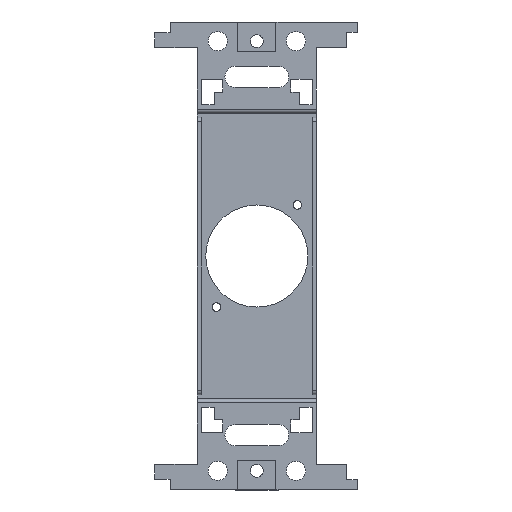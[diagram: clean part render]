
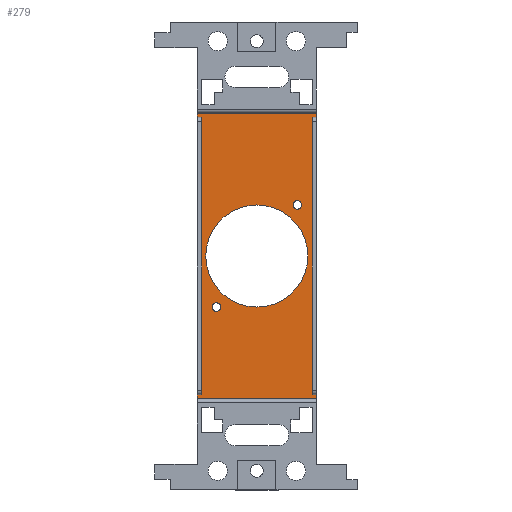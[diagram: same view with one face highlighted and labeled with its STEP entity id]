
A CAD part, top view. The second image highlights one B-rep face of the part: STEP entity #279.
In plain terms, the highlighted planar face has unit normal (0, 0, 1).
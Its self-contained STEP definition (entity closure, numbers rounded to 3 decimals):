
#22 = VERTEX_POINT('',#23);
#23 = CARTESIAN_POINT('',(-14.,33.5,1.));
#156 = VERTEX_POINT('',#157);
#157 = CARTESIAN_POINT('',(-14.,-33.5,1.));
#163 = EDGE_CURVE('',#164,#156,#166,.T.);
#164 = VERTEX_POINT('',#165);
#165 = CARTESIAN_POINT('',(-14.,-32.6,1.));
#166 = LINE('',#167,#168);
#167 = CARTESIAN_POINT('',(-14.,34.5,1.));
#168 = VECTOR('',#169,1.);
#169 = DIRECTION('',(0.,-1.,0.));
#206 = VERTEX_POINT('',#207);
#207 = CARTESIAN_POINT('',(-14.,32.6,1.));
#213 = EDGE_CURVE('',#22,#206,#214,.T.);
#214 = LINE('',#215,#216);
#215 = CARTESIAN_POINT('',(-14.,34.5,1.));
#216 = VECTOR('',#217,1.);
#217 = DIRECTION('',(0.,-1.,0.));
#237 = VERTEX_POINT('',#238);
#238 = CARTESIAN_POINT('',(14.,33.5,1.));
#244 = EDGE_CURVE('',#22,#237,#245,.T.);
#245 = LINE('',#246,#247);
#246 = CARTESIAN_POINT('',(-14.,33.5,1.));
#247 = VECTOR('',#248,1.);
#248 = DIRECTION('',(1.,0.,0.));
#279 = ADVANCED_FACE('',(#280,#353,#364,#375),#386,.T.);
#280 = FACE_BOUND('',#281,.T.);
#281 = EDGE_LOOP('',(#282,#290,#291,#299,#307,#315,#323,#331,#337,#338,
    #339,#347));
#282 = ORIENTED_EDGE('',*,*,#283,.F.);
#283 = EDGE_CURVE('',#164,#284,#286,.T.);
#284 = VERTEX_POINT('',#285);
#285 = CARTESIAN_POINT('',(-13.,-32.6,1.));
#286 = LINE('',#287,#288);
#287 = CARTESIAN_POINT('',(-14.,-32.6,1.));
#288 = VECTOR('',#289,1.);
#289 = DIRECTION('',(1.,0.,0.));
#290 = ORIENTED_EDGE('',*,*,#163,.T.);
#291 = ORIENTED_EDGE('',*,*,#292,.F.);
#292 = EDGE_CURVE('',#293,#156,#295,.T.);
#293 = VERTEX_POINT('',#294);
#294 = CARTESIAN_POINT('',(14.,-33.5,1.));
#295 = LINE('',#296,#297);
#296 = CARTESIAN_POINT('',(14.,-33.5,1.));
#297 = VECTOR('',#298,1.);
#298 = DIRECTION('',(-1.,0.,0.));
#299 = ORIENTED_EDGE('',*,*,#300,.T.);
#300 = EDGE_CURVE('',#293,#301,#303,.T.);
#301 = VERTEX_POINT('',#302);
#302 = CARTESIAN_POINT('',(14.,-32.6,1.));
#303 = LINE('',#304,#305);
#304 = CARTESIAN_POINT('',(14.,-34.5,1.));
#305 = VECTOR('',#306,1.);
#306 = DIRECTION('',(0.,1.,0.));
#307 = ORIENTED_EDGE('',*,*,#308,.F.);
#308 = EDGE_CURVE('',#309,#301,#311,.T.);
#309 = VERTEX_POINT('',#310);
#310 = CARTESIAN_POINT('',(13.,-32.6,1.));
#311 = LINE('',#312,#313);
#312 = CARTESIAN_POINT('',(13.,-32.6,1.));
#313 = VECTOR('',#314,1.);
#314 = DIRECTION('',(1.,0.,0.));
#315 = ORIENTED_EDGE('',*,*,#316,.F.);
#316 = EDGE_CURVE('',#317,#309,#319,.T.);
#317 = VERTEX_POINT('',#318);
#318 = CARTESIAN_POINT('',(13.,32.6,1.));
#319 = LINE('',#320,#321);
#320 = CARTESIAN_POINT('',(13.,32.6,1.));
#321 = VECTOR('',#322,1.);
#322 = DIRECTION('',(0.,-1.,0.));
#323 = ORIENTED_EDGE('',*,*,#324,.F.);
#324 = EDGE_CURVE('',#325,#317,#327,.T.);
#325 = VERTEX_POINT('',#326);
#326 = CARTESIAN_POINT('',(14.,32.6,1.));
#327 = LINE('',#328,#329);
#328 = CARTESIAN_POINT('',(14.,32.6,1.));
#329 = VECTOR('',#330,1.);
#330 = DIRECTION('',(-1.,0.,0.));
#331 = ORIENTED_EDGE('',*,*,#332,.T.);
#332 = EDGE_CURVE('',#325,#237,#333,.T.);
#333 = LINE('',#334,#335);
#334 = CARTESIAN_POINT('',(14.,-34.5,1.));
#335 = VECTOR('',#336,1.);
#336 = DIRECTION('',(0.,1.,0.));
#337 = ORIENTED_EDGE('',*,*,#244,.F.);
#338 = ORIENTED_EDGE('',*,*,#213,.T.);
#339 = ORIENTED_EDGE('',*,*,#340,.F.);
#340 = EDGE_CURVE('',#341,#206,#343,.T.);
#341 = VERTEX_POINT('',#342);
#342 = CARTESIAN_POINT('',(-13.,32.6,1.));
#343 = LINE('',#344,#345);
#344 = CARTESIAN_POINT('',(-13.,32.6,1.));
#345 = VECTOR('',#346,1.);
#346 = DIRECTION('',(-1.,0.,0.));
#347 = ORIENTED_EDGE('',*,*,#348,.F.);
#348 = EDGE_CURVE('',#284,#341,#349,.T.);
#349 = LINE('',#350,#351);
#350 = CARTESIAN_POINT('',(-13.,-32.6,1.));
#351 = VECTOR('',#352,1.);
#352 = DIRECTION('',(0.,1.,0.));
#353 = FACE_BOUND('',#354,.T.);
#354 = EDGE_LOOP('',(#355));
#355 = ORIENTED_EDGE('',*,*,#356,.T.);
#356 = EDGE_CURVE('',#357,#357,#359,.T.);
#357 = VERTEX_POINT('',#358);
#358 = CARTESIAN_POINT('',(-8.5,-12.,1.));
#359 = CIRCLE('',#360,1.);
#360 = AXIS2_PLACEMENT_3D('',#361,#362,#363);
#361 = CARTESIAN_POINT('',(-9.5,-12.,1.));
#362 = DIRECTION('',(0.,0.,-1.));
#363 = DIRECTION('',(1.,0.,0.));
#364 = FACE_BOUND('',#365,.T.);
#365 = EDGE_LOOP('',(#366));
#366 = ORIENTED_EDGE('',*,*,#367,.T.);
#367 = EDGE_CURVE('',#368,#368,#370,.T.);
#368 = VERTEX_POINT('',#369);
#369 = CARTESIAN_POINT('',(12.,0.,1.));
#370 = CIRCLE('',#371,12.);
#371 = AXIS2_PLACEMENT_3D('',#372,#373,#374);
#372 = CARTESIAN_POINT('',(0.,0.,1.));
#373 = DIRECTION('',(0.,0.,-1.));
#374 = DIRECTION('',(1.,0.,0.));
#375 = FACE_BOUND('',#376,.T.);
#376 = EDGE_LOOP('',(#377));
#377 = ORIENTED_EDGE('',*,*,#378,.T.);
#378 = EDGE_CURVE('',#379,#379,#381,.T.);
#379 = VERTEX_POINT('',#380);
#380 = CARTESIAN_POINT('',(10.5,12.,1.));
#381 = CIRCLE('',#382,1.);
#382 = AXIS2_PLACEMENT_3D('',#383,#384,#385);
#383 = CARTESIAN_POINT('',(9.5,12.,1.));
#384 = DIRECTION('',(0.,0.,-1.));
#385 = DIRECTION('',(1.,0.,0.));
#386 = PLANE('',#387);
#387 = AXIS2_PLACEMENT_3D('',#388,#389,#390);
#388 = CARTESIAN_POINT('',(0.,0.,1.));
#389 = DIRECTION('',(0.,0.,1.));
#390 = DIRECTION('',(1.,0.,0.));
